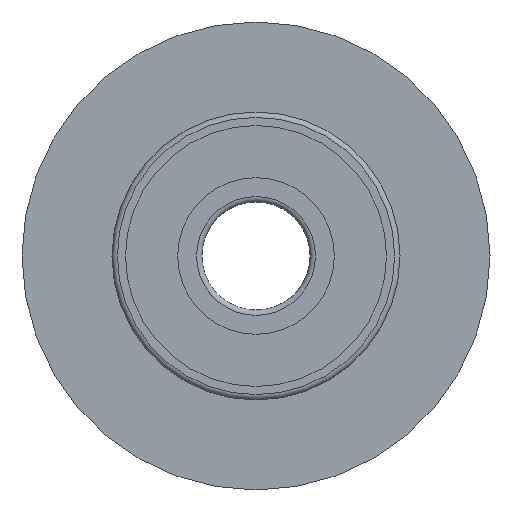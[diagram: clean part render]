
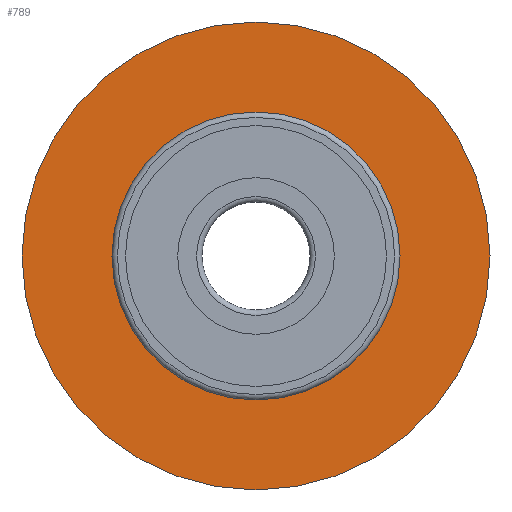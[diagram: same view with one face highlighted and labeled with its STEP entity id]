
A CAD part, left-side view. The second image highlights one B-rep face of the part: STEP entity #789.
In plain terms, the highlighted planar face has unit normal (-1, 0, 0).
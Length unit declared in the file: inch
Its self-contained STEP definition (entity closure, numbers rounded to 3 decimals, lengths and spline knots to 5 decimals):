
#762=CARTESIAN_POINT('',(113.41139,118.97152,0.));
#763=VERTEX_POINT('',#762);
#764=CARTESIAN_POINT('',(113.41139,112.47152,0.));
#765=DIRECTION('',(1.,0.,0.));
#766=DIRECTION('',(0.,1.,0.));
#767=AXIS2_PLACEMENT_3D('',#764,#765,#766);
#768=CIRCLE('',#767,6.5);
#769=EDGE_CURVE('',#763,#763,#768,.T.);
#770=ORIENTED_EDGE('',*,*,#769,.F.);
#771=EDGE_LOOP('',(#770));
#772=FACE_OUTER_BOUND('',#771,.T.);
#773=CARTESIAN_POINT('',(113.41139,116.47152,0.));
#774=VERTEX_POINT('',#773);
#775=CARTESIAN_POINT('',(113.41139,112.47152,0.));
#776=DIRECTION('',(1.,0.,0.));
#777=DIRECTION('',(0.,1.,0.));
#778=AXIS2_PLACEMENT_3D('',#775,#776,#777);
#779=CIRCLE('',#778,4.);
#780=EDGE_CURVE('',#774,#774,#779,.T.);
#781=ORIENTED_EDGE('',*,*,#780,.T.);
#782=EDGE_LOOP('',(#781));
#783=FACE_BOUND('',#782,.T.);
#784=CARTESIAN_POINT('',(113.41139,117.72152,0.));
#785=DIRECTION('',(-1.,0.,0.));
#786=DIRECTION('',(0.,-1.,0.));
#787=AXIS2_PLACEMENT_3D('',#784,#785,#786);
#788=PLANE('',#787);
#789=ADVANCED_FACE('',(#772,#783),#788,.T.);
